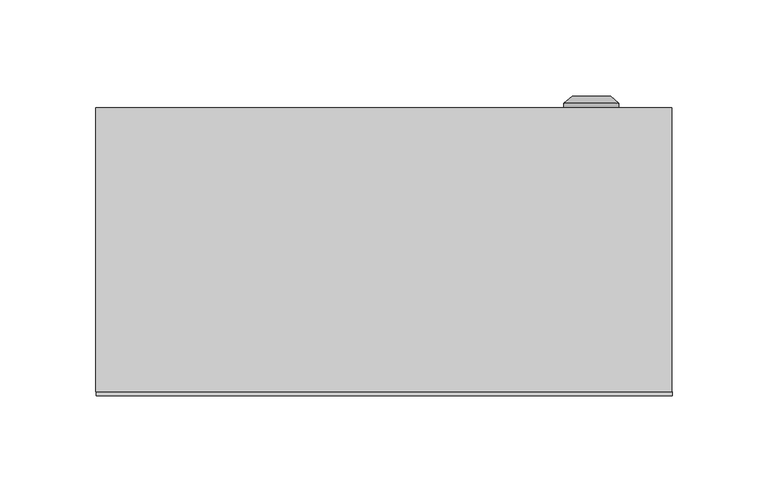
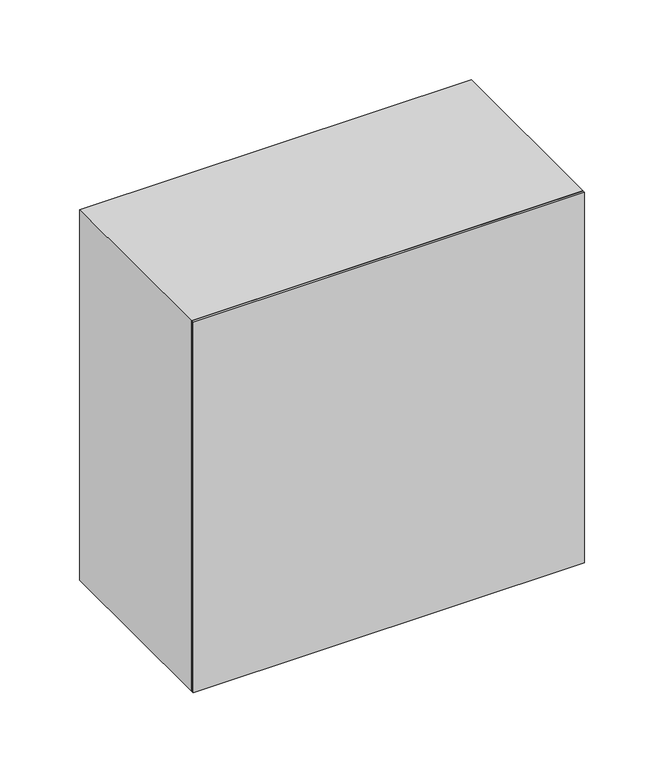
"""IFC4 building model written with IfcOpenShell, lengths in millimetres: proxy geometry, ЩМП : ЩМП-3.3.15_300х300х150."""

from ifc_helpers import new_model, si_unit, frame, origin, origin_with_axes, place, context, project, spatial, polyline, circle_curve, outline, extrude, source, transform, mapped, element, save
from ifc_brep_helpers import plane_surface, cylinder_surface, revolved_surface, advanced_brep


def electrical_equipment_6f267fd0(model_context):
    return source(origin(), model_context, "Body", "SolidModel", [
        advanced_brep(
        [(93.669873, 150.0, 145.0), (122.330127, 150.0, 145.0), (108.0, 150.0, 145.0), (93.669873, 152.366592, 145.0), (122.330127, 152.366592, 145.0), (98.0, 156.0, 145.0), (118.0, 156.0, 145.0), (106.1080471, 156.0, 145.0), (109.8919529, 156.0, 145.0), (106.1080471, 154.9822294, 145.0), (109.8919529, 154.9822294, 145.0), (108.0, 154.9822294, 145.0)],
        [
            (0, 1, circle_curve(frame((108.0, 150.0, 145.0), z_axis=(0.0, -1.0, 0.0), x_axis=(1.0, 0.0, 0.0)), 14.330127)),
            (1, 2),
            (2, 0),
            (1, 0, circle_curve(frame((108.0, 150.0, 145.0), z_axis=(0.0, -1.0, 0.0), x_axis=(1.0, 0.0, 0.0)), 14.330127)),
            (3, 4, circle_curve(frame((108.0, 152.366592, 145.0), z_axis=(0.0, -1.0, 0.0), x_axis=(1.0, 0.0, 0.0)), 14.330127)),
            (4, 1),
            (0, 3),
            (4, 3, circle_curve(frame((108.0, 152.366592, 145.0), z_axis=(0.0, -1.0, 0.0), x_axis=(1.0, 0.0, 0.0)), 14.330127)),
            (5, 6, circle_curve(frame((108.0, 156.0, 145.0), z_axis=(0.0, -1.0, 0.0), x_axis=(1.0, 0.0, 0.0)), 10.0)),
            (6, 4),
            (3, 5),
            (6, 5, circle_curve(frame((108.0, 156.0, 145.0), z_axis=(0.0, -1.0, 0.0), x_axis=(1.0, 0.0, 0.0)), 10.0)),
            (7, 8, circle_curve(frame((108.0, 156.0, 145.0), z_axis=(0.0, -1.0, 0.0), x_axis=(1.0, 0.0, 0.0)), 1.8919529)),
            (8, 6),
            (5, 7),
            (8, 7, circle_curve(frame((108.0, 156.0, 145.0), z_axis=(0.0, -1.0, 0.0), x_axis=(1.0, 0.0, 0.0)), 1.8919529)),
            (9, 10, circle_curve(frame((108.0, 154.9822294, 145.0), z_axis=(0.0, -1.0, 0.0), x_axis=(1.0, 0.0, 0.0)), 1.8919529)),
            (10, 8),
            (7, 9),
            (10, 9, circle_curve(frame((108.0, 154.9822294, 145.0), z_axis=(0.0, -1.0, 0.0), x_axis=(1.0, 0.0, 0.0)), 1.8919529)),
            (11, 10),
            (9, 11),
        ],
        [
            plane_surface(frame((108.0, 150.0, 145.0), z_axis=(0.0, -1.0, 0.0), x_axis=(1.0, 0.0, 0.0))),
            cylinder_surface(frame((108.0, 163.1348851, 145.0), z_axis=(0.0, 1.0, 0.0), x_axis=(1.0, 0.0, 0.0)), 14.330127),
            revolved_surface(polyline([(122.330127, 152.366592, 145.0), (118.0, 156.0, 145.0)]), (108.0, 163.1348851, 145.0), (0.0, 1.0, 0.0)),
            plane_surface(frame((108.0, 156.0, 145.0), z_axis=(0.0, 1.0, 0.0), x_axis=(1.0, 0.0, 0.0))),
            revolved_surface(polyline([(109.8919529, 156.0, 145.0), (109.8919529, 154.9822294, 145.0)]), (108.0, 163.1348851, 145.0), (0.0, 1.0, 0.0)),
            plane_surface(frame((108.0, 154.9822294, 145.0), z_axis=(0.0, 1.0, 0.0), x_axis=(1.0, 0.0, 0.0))),
        ],
        [
            (0, [[1, 2, 3]]),
            (0, [[4, -3, -2]]),
            (1, [[5, 6, -1, 7]]),
            (1, [[8, -7, -4, -6]]),
            (2, [[9, 10, -5, 11]]),
            (2, [[12, -11, -8, -10]]),
            (3, [[13, 14, -9, 15]]),
            (3, [[16, -15, -12, -14]]),
            (4, [[17, 18, -13, 19]]),
            (4, [[20, -19, -16, -18]]),
            (5, [[21, -17, 22]]),
            (5, [[-22, -20, -21]]),
        ],
    ),
        extrude(outline(polyline([(133.0, 125.0), (-133.0, 125.0), (-133.0, 150.0), (133.0, 150.0), (133.0, 125.0)])), frame((0.0, 0.0, 16.0), z_axis=(0.0, 0.0, 1.0), x_axis=(1.0, 0.0, 0.0)), (0.0, 0.0, 1.0), 268.0),
        extrude(outline(polyline([(300.0, -150.0033905), (0.0, -150.0033905), (0.0, 149.9966095), (300.0, 149.9966095), (300.0, -150.0033905)]), holes=[polyline([(265.0, -118.0033905), (265.0, 117.9966095), (25.0, 117.9966095), (25.0, -118.0033905), (265.0, -118.0033905)])]), frame((0.0, 2.0, 0.0), z_axis=(0.0, 1.0, 0.0), x_axis=(0.0, 0.0, 1.0)), (0.0, 0.0, 1.0), 148.0),
        extrude(outline(polyline([(150.0, 0.0), (-150.0, 0.0), (-150.0, 2.0), (150.0, 2.0), (150.0, 0.0)])), origin_with_axes(), (0.0, 0.0, 1.0), 300.0),
    ])


if __name__ == "__main__":
    model = new_model("IFC4")
    model_context = context("Model", 3, world=origin())
    ifc_project = project(units=[si_unit("LENGTHUNIT", "METRE", prefix="MILLI")], contexts=[model_context])
    site = spatial("IfcSite", under=ifc_project)
    building = spatial("IfcBuilding", under=site)
    placement = place(None, origin())
    electrical_equipment_shape = electrical_equipment_6f267fd0(model_context)
    element("IfcBuildingElementProxy", 1, Name="ЩМП : ЩМП-3.3.15_300х300х150", ObjectType="ЩМП : ЩМП-3.3.15_300х300х150", at=placement, inside=building, context=model_context, shape_type="MappedRepresentation", body=[
        mapped(electrical_equipment_shape, transform((0.0, 0.0, 0.0), x_axis=(1.0, 0.0, 0.0), y_axis=(0.0, 1.0, 0.0), z_axis=(0.0, 0.0, 1.0))),
    ])
    save(model, "model.ifc")
